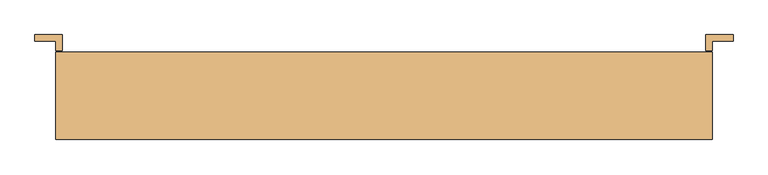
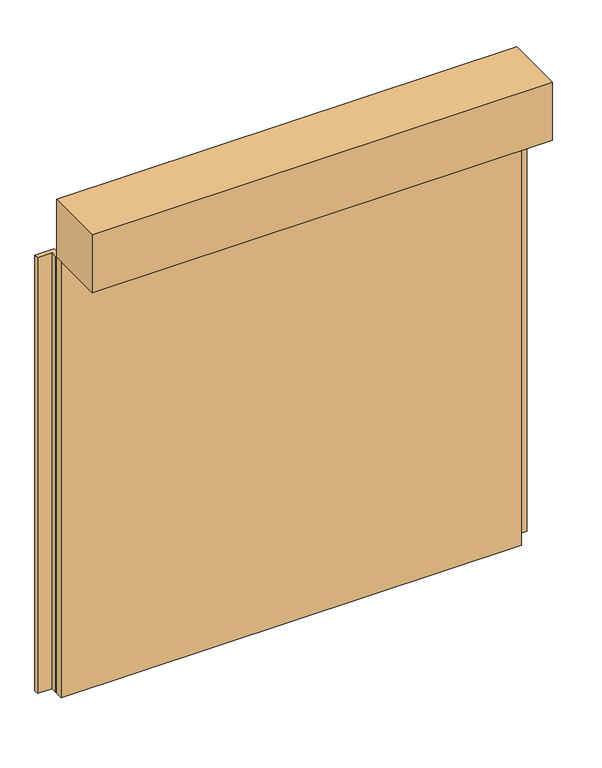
"""IFC4 building model written with IfcOpenShell, lengths in millimetres: door geometry, Rollershutter : 3000(w) x 3000(h)."""

from ifc_helpers import new_model, si_unit, frame, origin, origin_with_axes, place, context, project, spatial, polyline, outline, extrude, source, transform, mapped, element, save


def door_e08fb2c4(model_context):
    return source(origin(), model_context, "Body", "SweptSolid", [
        extrude(outline(polyline([(1100.0, -25.0), (1100.0, -76.0), (-1900.0, -76.0), (-1900.0, -25.0), (1100.0, -25.0)])), origin_with_axes(), (0.0, 0.0, 1.0), 3000.0),
        extrude(outline(polyline([(-1995.0, 55.0), (-1870.0, 55.0), (-1870.0, -16.8), (-1900.0, -16.8), (-1900.0, 25.0), (-1995.0, 25.0), (-1995.0, 55.0)])), origin_with_axes(), (0.0, 0.0, 1.0), 3000.0),
        extrude(outline(polyline([(1195.0, 55.0), (1195.0, 25.0), (1100.0, 25.0), (1100.0, -16.8), (1070.0, -16.8), (1070.0, 55.0), (1195.0, 55.0)])), origin_with_axes(), (0.0, 0.0, 1.0), 3000.0),
        extrude(outline(polyline([(-1900.0, -425.0), (-1900.0, -25.0), (1100.0, -25.0), (1100.0, -425.0), (-1900.0, -425.0)])), frame((0.0, 0.0, 3000.0), z_axis=(0.0, 0.0, 1.0), x_axis=(1.0, 0.0, 0.0)), (0.0, 0.0, 1.0), 400.0),
    ])


if __name__ == "__main__":
    model = new_model("IFC4")
    model_context = context("Model", 3, world=origin())
    ifc_project = project(units=[si_unit("LENGTHUNIT", "METRE", prefix="MILLI")], contexts=[model_context])
    site = spatial("IfcSite", under=ifc_project)
    building = spatial("IfcBuilding", under=site)
    placement = place(None, origin())
    door_shape = door_e08fb2c4(model_context)
    element("IfcDoor", 1, ObjectType="Rollershutter : 3000(w) x 3000(h)", at=placement, inside=building, context=model_context, shape_type="MappedRepresentation", body=[
        mapped(door_shape, transform((0.0, 0.0, 0.0), x_axis=(1.0, 0.0, 0.0), y_axis=(0.0, 1.0, 0.0), z_axis=(0.0, 0.0, 1.0))),
    ])
    save(model, "model.ifc")
